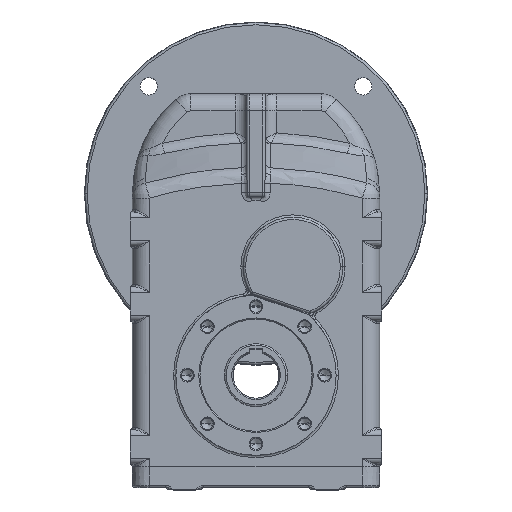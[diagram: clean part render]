
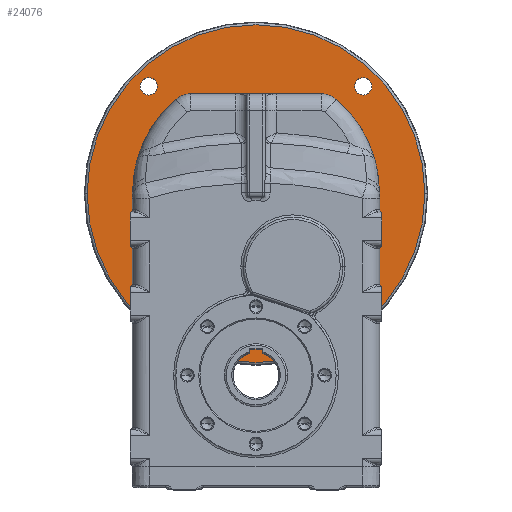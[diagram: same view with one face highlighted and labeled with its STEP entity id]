
A CAD part, top view. The second image highlights one B-rep face of the part: STEP entity #24076.
In plain terms, the highlighted planar face has unit normal (0, 0, 1).
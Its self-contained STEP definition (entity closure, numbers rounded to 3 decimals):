
#17975 = DIRECTION ( 'NONE',  ( 0., 0., -1. ) ) ;
#17976 = AXIS2_PLACEMENT_3D ( 'NONE', #17983, #17975, #18039 ) ;
#17977 = CIRCLE ( 'NONE', #17976, 147.545 ) ;
#17983 = CARTESIAN_POINT ( 'NONE',  ( 0., 0., 15. ) ) ;
#17986 = DIRECTION ( 'NONE',  ( -1., 0., 0. ) ) ;
#17987 = DIRECTION ( 'NONE',  ( 0., 0., -1. ) ) ;
#17988 = CARTESIAN_POINT ( 'NONE',  ( 0., 0., 15. ) ) ;
#17989 = AXIS2_PLACEMENT_3D ( 'NONE', #17988, #17987, #17986 ) ;
#17990 = CIRCLE ( 'NONE', #17989, 58.142 ) ;
#18039 = DIRECTION ( 'NONE',  ( -1., 0., 0. ) ) ;
#18056 = CARTESIAN_POINT ( 'NONE',  ( -58.142, 0., 15. ) ) ;
#18057 = CARTESIAN_POINT ( 'NONE',  ( -147.545, 0., 15. ) ) ;
#22259 = CARTESIAN_POINT ( 'NONE',  ( 58.142, 0., 15. ) ) ;
#22300 = CARTESIAN_POINT ( 'NONE',  ( 147.545, 0., 15. ) ) ;
#24058 = ORIENTED_EDGE ( 'NONE', *, *, #38387, .T. ) ;
#24059 = EDGE_LOOP ( 'NONE', ( #24060, #24062 ) ) ;
#24060 = ORIENTED_EDGE ( 'NONE', *, *, #24061, .T. ) ;
#24061 = EDGE_CURVE ( 'NONE', #30163, #30170, #40865, .T. ) ;
#24062 = ORIENTED_EDGE ( 'NONE', *, *, #30174, .T. ) ;
#24063 = EDGE_LOOP ( 'NONE', ( #24064, #24066 ) ) ;
#24064 = ORIENTED_EDGE ( 'NONE', *, *, #24065, .T. ) ;
#24065 = EDGE_CURVE ( 'NONE', #31121, #31127, #41011, .T. ) ;
#24066 = ORIENTED_EDGE ( 'NONE', *, *, #31133, .T. ) ;
#24067 = EDGE_LOOP ( 'NONE', ( #24068, #24121 ) ) ;
#24068 = ORIENTED_EDGE ( 'NONE', *, *, #24069, .T. ) ;
#24069 = EDGE_CURVE ( 'NONE', #33260, #33384, #40997, .T. ) ;
#24073 = EDGE_CURVE ( 'NONE', #33393, #33257, #40969, .T. ) ;
#24076 = ADVANCED_FACE ( 'NONE', ( #40960, #40958, #40956, #40955, #40954, #40952 ), #40947, .T. ) ;
#24077 = EDGE_LOOP ( 'NONE', ( #24078, #24080 ) ) ;
#24078 = ORIENTED_EDGE ( 'NONE', *, *, #24079, .T. ) ;
#24079 = EDGE_CURVE ( 'NONE', #38481, #38479, #41098, .T. ) ;
#24080 = ORIENTED_EDGE ( 'NONE', *, *, #38477, .T. ) ;
#24081 = EDGE_LOOP ( 'NONE', ( #24138, #24058 ) ) ;
#24121 = ORIENTED_EDGE ( 'NONE', *, *, #33216, .T. ) ;
#24122 = EDGE_LOOP ( 'NONE', ( #24123, #24124 ) ) ;
#24123 = ORIENTED_EDGE ( 'NONE', *, *, #33231, .F. ) ;
#24124 = ORIENTED_EDGE ( 'NONE', *, *, #24073, .F. ) ;
#24138 = ORIENTED_EDGE ( 'NONE', *, *, #24140, .T. ) ;
#24140 = EDGE_CURVE ( 'NONE', #38375, #38389, #41252, .T. ) ;
#30163 = VERTEX_POINT ( 'NONE', #56709 ) ;
#30170 = VERTEX_POINT ( 'NONE', #56693 ) ;
#30174 = EDGE_CURVE ( 'NONE', #30170, #30163, #56684, .T. ) ;
#31121 = VERTEX_POINT ( 'NONE', #61877 ) ;
#31127 = VERTEX_POINT ( 'NONE', #61874 ) ;
#31133 = EDGE_CURVE ( 'NONE', #31127, #31121, #62020, .T. ) ;
#33216 = EDGE_CURVE ( 'NONE', #33384, #33260, #17990, .T. ) ;
#33231 = EDGE_CURVE ( 'NONE', #33257, #33393, #17977, .T. ) ;
#33257 = VERTEX_POINT ( 'NONE', #18057 ) ;
#33260 = VERTEX_POINT ( 'NONE', #18056 ) ;
#33384 = VERTEX_POINT ( 'NONE', #22259 ) ;
#33393 = VERTEX_POINT ( 'NONE', #22300 ) ;
#38375 = VERTEX_POINT ( 'NONE', #82320 ) ;
#38387 = EDGE_CURVE ( 'NONE', #38389, #38375, #82317, .T. ) ;
#38389 = VERTEX_POINT ( 'NONE', #82373 ) ;
#38477 = EDGE_CURVE ( 'NONE', #38479, #38481, #82432, .T. ) ;
#38479 = VERTEX_POINT ( 'NONE', #82423 ) ;
#38481 = VERTEX_POINT ( 'NONE', #82422 ) ;
#40865 = CIRCLE ( 'NONE', #41021, 7.5 ) ;
#40940 = DIRECTION ( 'NONE',  ( 1., 0., 0. ) ) ;
#40942 = DIRECTION ( 'NONE',  ( 0., 0., 1. ) ) ;
#40944 = CARTESIAN_POINT ( 'NONE',  ( 0., 147.545, 15. ) ) ;
#40945 = AXIS2_PLACEMENT_3D ( 'NONE', #40944, #40942, #40940 ) ;
#40947 = PLANE ( 'NONE',  #40945 ) ;
#40952 = FACE_OUTER_BOUND ( 'NONE', #24122, .T. ) ;
#40954 = FACE_BOUND ( 'NONE', #24067, .T. ) ;
#40955 = FACE_BOUND ( 'NONE', #24063, .T. ) ;
#40956 = FACE_BOUND ( 'NONE', #24059, .T. ) ;
#40958 = FACE_BOUND ( 'NONE', #24081, .T. ) ;
#40960 = FACE_BOUND ( 'NONE', #24077, .T. ) ;
#40962 = DIRECTION ( 'NONE',  ( -1., 0., 0. ) ) ;
#40964 = DIRECTION ( 'NONE',  ( 0., 0., -1. ) ) ;
#40966 = CARTESIAN_POINT ( 'NONE',  ( 0., 0., 15. ) ) ;
#40967 = AXIS2_PLACEMENT_3D ( 'NONE', #40966, #40964, #40962 ) ;
#40969 = CIRCLE ( 'NONE', #40967, 147.545 ) ;
#40990 = DIRECTION ( 'NONE',  ( -1., 0., 0. ) ) ;
#40992 = DIRECTION ( 'NONE',  ( 0., 0., -1. ) ) ;
#40994 = CARTESIAN_POINT ( 'NONE',  ( 0., 0., 15. ) ) ;
#40996 = AXIS2_PLACEMENT_3D ( 'NONE', #40994, #40992, #40990 ) ;
#40997 = CIRCLE ( 'NONE', #40996, 58.142 ) ;
#41004 = DIRECTION ( 'NONE',  ( 1., 0., 0. ) ) ;
#41006 = DIRECTION ( 'NONE',  ( 0., 0., -1. ) ) ;
#41008 = CARTESIAN_POINT ( 'NONE',  ( 93.692, 93.692, 15. ) ) ;
#41009 = AXIS2_PLACEMENT_3D ( 'NONE', #41008, #41006, #41004 ) ;
#41011 = CIRCLE ( 'NONE', #41009, 7.5 ) ;
#41016 = DIRECTION ( 'NONE',  ( 1., 0., 0. ) ) ;
#41018 = DIRECTION ( 'NONE',  ( 0., 0., -1. ) ) ;
#41020 = CARTESIAN_POINT ( 'NONE',  ( -93.692, 93.692, 15. ) ) ;
#41021 = AXIS2_PLACEMENT_3D ( 'NONE', #41020, #41018, #41016 ) ;
#41091 = DIRECTION ( 'NONE',  ( 1., 0., 0. ) ) ;
#41093 = DIRECTION ( 'NONE',  ( 0., 0., -1. ) ) ;
#41094 = CARTESIAN_POINT ( 'NONE',  ( -93.692, -93.692, 15. ) ) ;
#41096 = AXIS2_PLACEMENT_3D ( 'NONE', #41094, #41093, #41091 ) ;
#41098 = CIRCLE ( 'NONE', #41096, 7.5 ) ;
#41246 = DIRECTION ( 'NONE',  ( 1., 0., 0. ) ) ;
#41248 = DIRECTION ( 'NONE',  ( 0., 0., -1. ) ) ;
#41250 = AXIS2_PLACEMENT_3D ( 'NONE', #41263, #41248, #41246 ) ;
#41252 = CIRCLE ( 'NONE', #41250, 7.5 ) ;
#41263 = CARTESIAN_POINT ( 'NONE',  ( 93.692, -93.692, 15. ) ) ;
#56679 = DIRECTION ( 'NONE',  ( 1., 0., 0. ) ) ;
#56681 = DIRECTION ( 'NONE',  ( 0., 0., -1. ) ) ;
#56682 = CARTESIAN_POINT ( 'NONE',  ( -93.692, 93.692, 15. ) ) ;
#56683 = AXIS2_PLACEMENT_3D ( 'NONE', #56682, #56681, #56679 ) ;
#56684 = CIRCLE ( 'NONE', #56683, 7.5 ) ;
#56693 = CARTESIAN_POINT ( 'NONE',  ( -86.192, 93.692, 15. ) ) ;
#56709 = CARTESIAN_POINT ( 'NONE',  ( -101.192, 93.692, 15. ) ) ;
#61874 = CARTESIAN_POINT ( 'NONE',  ( 101.192, 93.692, 15. ) ) ;
#61877 = CARTESIAN_POINT ( 'NONE',  ( 86.192, 93.692, 15. ) ) ;
#62013 = DIRECTION ( 'NONE',  ( 1., 0., 0. ) ) ;
#62015 = DIRECTION ( 'NONE',  ( 0., 0., -1. ) ) ;
#62017 = CARTESIAN_POINT ( 'NONE',  ( 93.692, 93.692, 15. ) ) ;
#62018 = AXIS2_PLACEMENT_3D ( 'NONE', #62017, #62015, #62013 ) ;
#62020 = CIRCLE ( 'NONE', #62018, 7.5 ) ;
#82317 = CIRCLE ( 'NONE', #82377, 7.5 ) ;
#82320 = CARTESIAN_POINT ( 'NONE',  ( 86.192, -93.692, 15. ) ) ;
#82373 = CARTESIAN_POINT ( 'NONE',  ( 101.192, -93.692, 15. ) ) ;
#82374 = DIRECTION ( 'NONE',  ( 1., 0., 0. ) ) ;
#82375 = DIRECTION ( 'NONE',  ( 0., 0., -1. ) ) ;
#82376 = CARTESIAN_POINT ( 'NONE',  ( 93.692, -93.692, 15. ) ) ;
#82377 = AXIS2_PLACEMENT_3D ( 'NONE', #82376, #82375, #82374 ) ;
#82422 = CARTESIAN_POINT ( 'NONE',  ( -101.192, -93.692, 15. ) ) ;
#82423 = CARTESIAN_POINT ( 'NONE',  ( -86.192, -93.692, 15. ) ) ;
#82424 = DIRECTION ( 'NONE',  ( 1., 0., 0. ) ) ;
#82425 = DIRECTION ( 'NONE',  ( 0., 0., -1. ) ) ;
#82426 = CARTESIAN_POINT ( 'NONE',  ( -93.692, -93.692, 15. ) ) ;
#82427 = AXIS2_PLACEMENT_3D ( 'NONE', #82426, #82425, #82424 ) ;
#82432 = CIRCLE ( 'NONE', #82427, 7.5 ) ;
